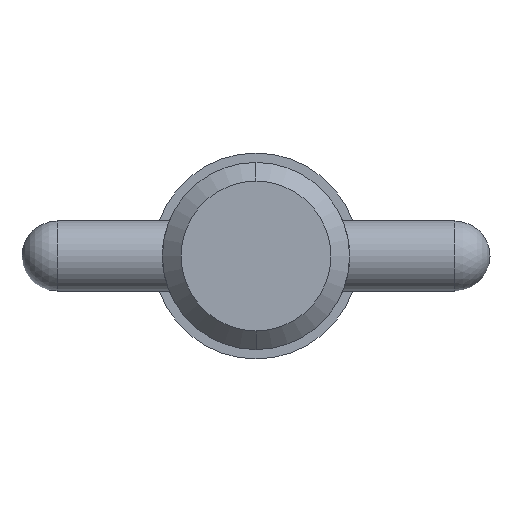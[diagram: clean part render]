
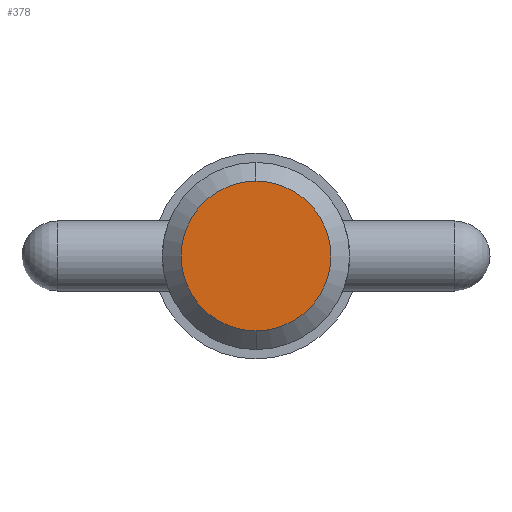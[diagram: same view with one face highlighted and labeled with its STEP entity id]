
A CAD part, left-side view. The second image highlights one B-rep face of the part: STEP entity #378.
In plain terms, the highlighted planar face has unit normal (-1, 0, 0).
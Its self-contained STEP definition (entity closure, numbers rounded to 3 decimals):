
#73 = EDGE_CURVE ( 'NONE', #306, #444, #214, .T. ) ;
#138 = DIRECTION ( 'NONE',  ( 0., 0., -1. ) ) ;
#207 = ORIENTED_EDGE ( 'NONE', *, *, #347, .F. ) ;
#214 = CIRCLE ( 'NONE', #559, 5.08 ) ;
#228 = CARTESIAN_POINT ( 'NONE',  ( 0., 0., 5.08 ) ) ;
#233 = CARTESIAN_POINT ( 'NONE',  ( 0., 0., 0. ) ) ;
#237 = AXIS2_PLACEMENT_3D ( 'NONE', #646, #745, #470 ) ;
#250 = FACE_OUTER_BOUND ( 'NONE', #317, .T. ) ;
#306 = VERTEX_POINT ( 'NONE', #608 ) ;
#317 = EDGE_LOOP ( 'NONE', ( #411, #207 ) ) ;
#347 = EDGE_CURVE ( 'NONE', #444, #306, #873, .T. ) ;
#378 = ADVANCED_FACE ( 'NONE', ( #250 ), #800, .T. ) ;
#411 = ORIENTED_EDGE ( 'NONE', *, *, #73, .F. ) ;
#444 = VERTEX_POINT ( 'NONE', #228 ) ;
#470 = DIRECTION ( 'NONE',  ( 0., 0., 1. ) ) ;
#558 = DIRECTION ( 'NONE',  ( 0., 0., -1. ) ) ;
#559 = AXIS2_PLACEMENT_3D ( 'NONE', #233, #566, #558 ) ;
#566 = DIRECTION ( 'NONE',  ( 1., 0., 0. ) ) ;
#608 = CARTESIAN_POINT ( 'NONE',  ( 0., 0., -5.08 ) ) ;
#646 = CARTESIAN_POINT ( 'NONE',  ( 0., 0., 0. ) ) ;
#739 = AXIS2_PLACEMENT_3D ( 'NONE', #942, #934, #138 ) ;
#745 = DIRECTION ( 'NONE',  ( -1., 0., 0. ) ) ;
#800 = PLANE ( 'NONE',  #237 ) ;
#873 = CIRCLE ( 'NONE', #739, 5.08 ) ;
#934 = DIRECTION ( 'NONE',  ( 1., 0., 0. ) ) ;
#942 = CARTESIAN_POINT ( 'NONE',  ( 0., 0., 0. ) ) ;
